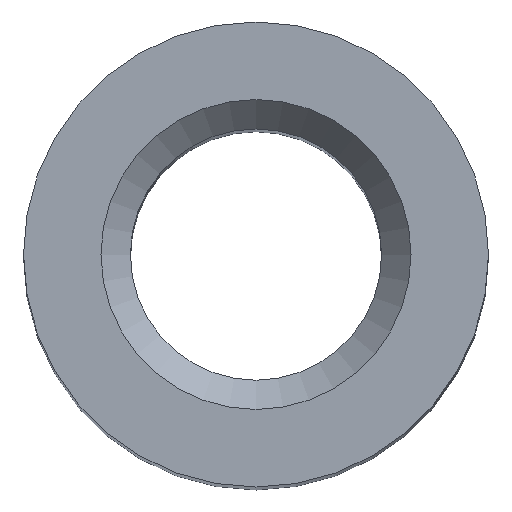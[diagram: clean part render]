
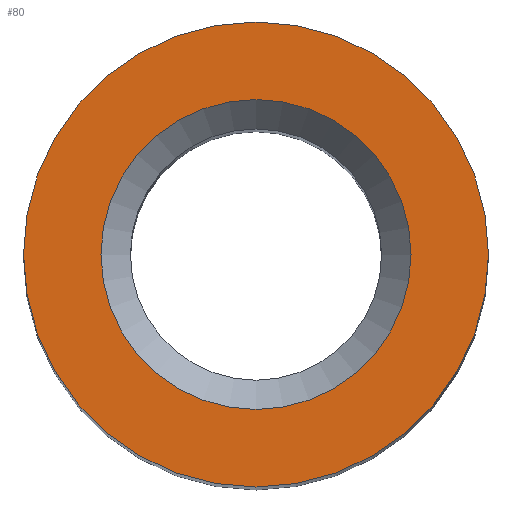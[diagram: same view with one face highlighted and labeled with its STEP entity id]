
A CAD part, top view. The second image highlights one B-rep face of the part: STEP entity #80.
In plain terms, the highlighted planar face has unit normal (0, 0, 1).
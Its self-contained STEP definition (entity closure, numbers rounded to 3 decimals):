
#16=PLANE('',#100);
#24=FACE_BOUND('',#42,.T.);
#30=FACE_OUTER_BOUND('',#41,.T.);
#41=EDGE_LOOP('',(#71));
#42=EDGE_LOOP('',(#72));
#47=CIRCLE('',#97,2.);
#48=CIRCLE('',#99,3.);
#53=VERTEX_POINT('',#140);
#54=VERTEX_POINT('',#143);
#59=EDGE_CURVE('',#53,#53,#47,.T.);
#60=EDGE_CURVE('',#54,#54,#48,.T.);
#71=ORIENTED_EDGE('',*,*,#60,.T.);
#72=ORIENTED_EDGE('',*,*,#59,.T.);
#80=ADVANCED_FACE('',(#30,#24),#16,.T.);
#97=AXIS2_PLACEMENT_3D('',#141,#119,#120);
#99=AXIS2_PLACEMENT_3D('',#144,#123,#124);
#100=AXIS2_PLACEMENT_3D('',#145,#125,#126);
#119=DIRECTION('center_axis',(0.,0.,-1.));
#120=DIRECTION('ref_axis',(1.,0.,0.));
#123=DIRECTION('center_axis',(0.,0.,1.));
#124=DIRECTION('ref_axis',(-1.,0.,0.));
#125=DIRECTION('center_axis',(0.,0.,1.));
#126=DIRECTION('ref_axis',(1.,0.,0.));
#140=CARTESIAN_POINT('',(2.,0.,22.));
#141=CARTESIAN_POINT('Origin',(0.,0.,22.));
#143=CARTESIAN_POINT('',(3.,0.,22.));
#144=CARTESIAN_POINT('Origin',(0.,0.,22.));
#145=CARTESIAN_POINT('Origin',(0.,0.,22.));
